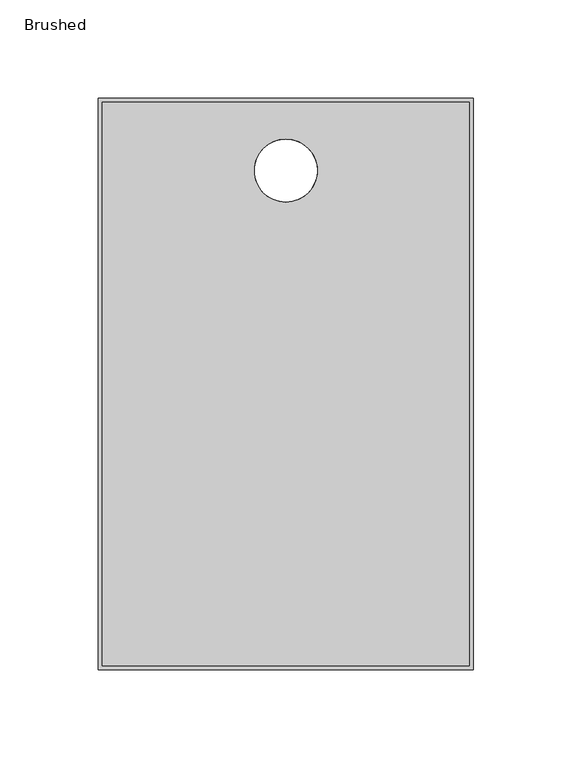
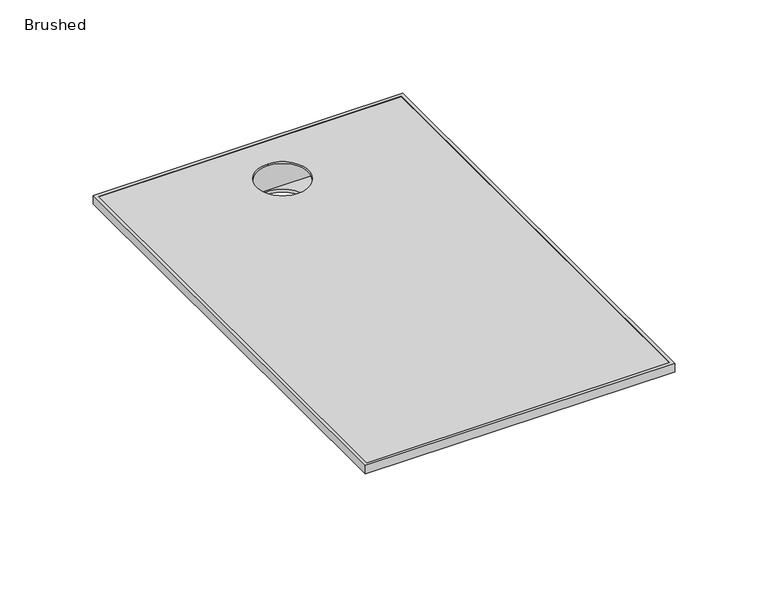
"""IFC4 building model written with IfcOpenShell, lengths in millimetres: flow terminal geometry, z_PlumFixt_Billi_Slimline Font : Brushed."""

from ifc_helpers import new_model, si_unit, point, frame, frame_2d, origin, place, context, project, spatial, polyline, circle_curve, ellipse_curve, trimmed, segment, composite_curve, outline, extrude, source, transform, mapped, element, save
from ifc_brep_helpers import plane_surface, revolved_surface, advanced_brep


def brushed_f93afeca(model_context):
    return source(origin(), model_context, "Body", "SolidModel", [
        advanced_brep(
        [(76.6433025, 111.8933025, -18.0), (-74.6433025, 111.8933025, -18.0), (-74.6433025, -139.3933025, -18.0), (76.6433025, -139.3933025, -18.0), (21.0, -13.75, -18.0), (-19.0, -13.75, -18.0), (17.0, 94.8404608, -18.0), (-15.0, 94.8404608, -18.0), (-75.6147367, 112.8647367, -20.0), (77.6147367, 112.8647367, -20.0), (77.6147367, -140.3647367, -20.0), (-75.6147367, -140.3647367, -20.0), (21.0, -13.75, -20.0), (-19.0, -13.75, -20.0), (17.0, 94.8404608, -20.0), (-15.0, 94.8404608, -20.0), (-94.5, 131.75, -5.5), (-94.5, 131.75, 0.0), (96.5, 131.75, 0.0), (96.5, 131.75, -5.5), (-78.5070058, 115.7570058, -9.2059048), (-83.3366349, 120.5866349, -5.5), (85.3366349, 120.5866349, -5.5), (80.5070058, 115.7570058, -9.2059048), (-92.5, 129.75, 0.0), (-92.5, 129.75, -1.9884397), (94.5, 129.75, -1.9884397), (94.5, 129.75, 0.0), (96.5, -159.25, 0.0), (96.5, -159.25, -5.5), (85.3366349, -148.0866349, -5.5), (80.5070058, -143.2570058, -9.2059048), (94.5, -157.25, -1.9884397), (94.5, -157.25, 0.0), (-94.5, -159.25, 0.0), (-94.5, -159.25, -5.5), (-83.3366349, -148.0866349, -5.5), (-78.5070058, -143.2570058, -9.2059048), (-92.5, -157.25, -1.9884397), (-92.5, -157.25, 0.0), (76.6433025, 111.8933025, -1.9884397), (76.6433025, -139.3933025, -1.9884397), (-74.6433025, -139.3933025, -1.9884397), (-74.6433025, 111.8933025, -1.9884397)],
        [
            (0, 1),
            (1, 2),
            (2, 3),
            (3, 0),
            (4, 5, circle_curve(frame((1.0, -13.75, -18.0), z_axis=(0.0, 0.0, -1.0), x_axis=(-1.0, 0.0, 0.0)), 20.0)),
            (5, 4, circle_curve(frame((1.0, -13.75, -18.0), z_axis=(0.0, 0.0, -1.0), x_axis=(-1.0, 0.0, 0.0)), 20.0)),
            (6, 7, circle_curve(frame((1.0, 94.8404608, -18.0), z_axis=(0.0, 0.0, -1.0), x_axis=(-1.0, 0.0, 0.0)), 16.0)),
            (7, 6, circle_curve(frame((1.0, 94.8404608, -18.0), z_axis=(0.0, 0.0, -1.0), x_axis=(-1.0, 0.0, 0.0)), 16.0)),
            (8, 9),
            (9, 10),
            (10, 11),
            (11, 8),
            (12, 13, circle_curve(frame((1.0, -13.75, -20.0), z_axis=(0.0, 0.0, 1.0), x_axis=(-1.0, 0.0, 0.0)), 20.0)),
            (13, 12, circle_curve(frame((1.0, -13.75, -20.0), z_axis=(0.0, 0.0, 1.0), x_axis=(-1.0, 0.0, 0.0)), 20.0)),
            (14, 15, circle_curve(frame((1.0, 94.8404608, -20.0), z_axis=(0.0, 0.0, 1.0), x_axis=(-1.0, 0.0, 0.0)), 16.0)),
            (15, 14, circle_curve(frame((1.0, 94.8404608, -20.0), z_axis=(0.0, 0.0, 1.0), x_axis=(-1.0, 0.0, 0.0)), 16.0)),
            (4, 12),
            (13, 5),
            (16, 17),
            (17, 18),
            (18, 19),
            (19, 16),
            (20, 21, ellipse_curve(frame((-83.3366349, 120.5866349, -10.5), z_axis=(-0.7071067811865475, -0.7071067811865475, 0.0), x_axis=(0.7071067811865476, -0.7071067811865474, 0.0)), 7.0710678, 5.0)),
            (21, 22),
            (22, 23, ellipse_curve(frame((85.3366349, 120.5866349, -10.5), z_axis=(0.7071067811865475, -0.7071067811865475, 0.0), x_axis=(0.7071067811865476, 0.7071067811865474, 0.0)), 7.0710678, 5.0)),
            (23, 20),
            (23, 9),
            (8, 20),
            (24, 25),
            (25, 26),
            (26, 27),
            (27, 24),
            (18, 28),
            (28, 29),
            (29, 19),
            (22, 30),
            (30, 31, ellipse_curve(frame((85.3366349, -148.0866349, -10.5), z_axis=(-0.7071067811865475, -0.7071067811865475, 0.0), x_axis=(0.7071067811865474, -0.7071067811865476, 0.0)), 7.0710678, 5.0)),
            (31, 23),
            (31, 10),
            (26, 32),
            (32, 33),
            (33, 27),
            (28, 34),
            (34, 35),
            (35, 29),
            (30, 36),
            (36, 37, ellipse_curve(frame((-83.3366349, -148.0866349, -10.5), z_axis=(-0.7071067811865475, 0.7071067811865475, 0.0), x_axis=(-0.7071067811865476, -0.7071067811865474, 0.0)), 7.0710678, 5.0)),
            (37, 31),
            (37, 11),
            (32, 38),
            (38, 39),
            (39, 33),
            (17, 34),
            (39, 24),
            (16, 35),
            (21, 36),
            (20, 37),
            (25, 38),
            (40, 41),
            (41, 42),
            (42, 43),
            (43, 40),
            (43, 1),
            (0, 40),
            (3, 41),
            (2, 42),
            (6, 14),
            (15, 7),
        ],
        [
            plane_surface(frame((76.6433025, -139.3933025, -18.0), z_axis=(0.0, 0.0, 1.0), x_axis=(1.0, 0.0, 0.0))),
            plane_surface(frame((76.6433025, -139.3933025, -20.0), z_axis=(0.0, 0.0, -1.0), x_axis=(-1.0, 0.0, 0.0))),
            revolved_surface(polyline([(-19.0, -13.75, -20.0), (-19.0, -13.75, -18.0)]), (1.0, -13.75, -20.0), (0.0, 0.0, -1.0)),
            plane_surface(frame((-94.5, 131.75, 0.0), z_axis=(0.0, 1.0, 0.0), x_axis=(1.0, 0.0, 0.0))),
            revolved_surface(polyline([(90.33663489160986, 125.5866349, -10.5), (-88.33663489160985, 125.5866349, -10.5)]), (-94.5, 120.5866349, -10.5), (1.0, 0.0, 0.0)),
            plane_surface(frame((-78.5070058, 115.7570058, -9.2059048), z_axis=(0.0, 0.9659258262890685, -0.2588190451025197), x_axis=(1.0, 0.0, 0.0))),
            plane_surface(frame((-92.5, 129.75, -1.9884397), z_axis=(0.0, -1.0, 0.0), x_axis=(1.0, 0.0, 0.0))),
            plane_surface(frame((96.5, 131.75, 0.0), z_axis=(1.0, 0.0, 0.0), x_axis=(0.0, -1.0, 0.0))),
            revolved_surface(polyline([(90.3366349, -153.0866348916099, -10.5), (90.3366349, 125.58663489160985, -10.5)]), (85.3366349, 131.75, -10.5), (0.0, -1.0, 0.0)),
            plane_surface(frame((80.5070058, 115.7570058, -9.2059048), z_axis=(0.9659258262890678, 0.0, -0.25881904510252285), x_axis=(0.0, -1.0, 0.0))),
            plane_surface(frame((94.5, 129.75, -1.9884397), z_axis=(-1.0, 0.0, 0.0), x_axis=(0.0, -1.0, 0.0))),
            plane_surface(frame((96.5, -159.25, 0.0), z_axis=(0.0, -1.0, 0.0), x_axis=(-1.0, 0.0, 0.0))),
            revolved_surface(polyline([(-88.33663489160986, -153.0866349, -10.5), (90.33663489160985, -153.0866349, -10.5)]), (96.5, -148.0866349, -10.5), (-1.0, 0.0, 0.0)),
            plane_surface(frame((80.5070058, -143.2570058, -9.2059048), z_axis=(0.0, -0.9659258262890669, -0.25881904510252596), x_axis=(-1.0, 0.0, 0.0))),
            plane_surface(frame((94.5, -157.25, -1.9884397), z_axis=(0.0, 1.0, 0.0), x_axis=(-1.0, 0.0, 0.0))),
            plane_surface(frame((-92.5, -157.25, 0.0), z_axis=(0.0, 0.0, 1.0), x_axis=(0.0, 1.0, 0.0))),
            plane_surface(frame((-94.5, -159.25, 0.0), z_axis=(-1.0, 0.0, 0.0), x_axis=(0.0, 1.0, 0.0))),
            plane_surface(frame((-94.5, -159.25, -5.5), z_axis=(0.0, 0.0, -1.0), x_axis=(0.0, 1.0, 0.0))),
            revolved_surface(polyline([(-88.3366349, 125.58663489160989, -10.5), (-88.3366349, -153.08663489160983, -10.5)]), (-83.3366349, -159.25, -10.5), (0.0, 1.0, 0.0)),
            plane_surface(frame((-78.5070058, -143.2570058, -9.2059048), z_axis=(-0.9659258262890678, 0.0, -0.25881904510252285), x_axis=(0.0, 1.0, 0.0))),
            plane_surface(frame((-74.6433025, -139.3933025, -1.9884397), z_axis=(0.0, 0.0, 1.0), x_axis=(0.0, 1.0, 0.0))),
            plane_surface(frame((-92.5, -157.25, -1.9884397), z_axis=(1.0, 0.0, 0.0), x_axis=(0.0, 1.0, 0.0))),
            plane_surface(frame((-74.6433025, 111.8933025, -20.0), z_axis=(0.0, -1.0, 0.0), x_axis=(1.0, 0.0, 0.0))),
            plane_surface(frame((76.6433025, 111.8933025, -20.0), z_axis=(-1.0, 0.0, 0.0), x_axis=(0.0, -1.0, 0.0))),
            plane_surface(frame((76.6433025, -139.3933025, -20.0), z_axis=(0.0, 1.0, 0.0), x_axis=(-1.0, 0.0, 0.0))),
            plane_surface(frame((-74.6433025, -139.3933025, -20.0), z_axis=(1.0, 0.0, 0.0), x_axis=(0.0, 1.0, 0.0))),
            revolved_surface(polyline([(-15.0, 94.8404608, -20.0), (-15.0, 94.8404608, -18.0)]), (1.0, 94.8404608, -20.0), (0.0, 0.0, -1.0)),
        ],
        [
            (0, [[1, 2, 3, 4], [5, 6], [7, 8]]),
            (1, [[9, 10, 11, 12], [13, 14], [15, 16]]),
            (2, [[-5, 17, -14, 18]]),
            (2, [[-6, -18, -13, -17]]),
            (3, [[19, 20, 21, 22]]),
            (4, [[23, 24, 25, 26]]),
            (5, [[-26, 27, -9, 28]]),
            (6, [[29, 30, 31, 32]]),
            (7, [[-21, 33, 34, 35]]),
            (8, [[-25, 36, 37, 38]]),
            (9, [[-27, -38, 39, -10]]),
            (10, [[-31, 40, 41, 42]]),
            (11, [[-34, 43, 44, 45]]),
            (12, [[-37, 46, 47, 48]]),
            (13, [[-39, -48, 49, -11]]),
            (14, [[-41, 50, 51, 52]]),
            (15, [[-20, 53, -43, -33], [-32, -42, -52, 54]]),
            (16, [[-19, 55, -44, -53]]),
            (17, [[-22, -35, -45, -55], [-24, 56, -46, -36]]),
            (18, [[-23, 57, -47, -56]]),
            (19, [[-28, -12, -49, -57]]),
            (20, [[-30, 58, -50, -40], [59, 60, 61, 62]]),
            (21, [[-29, -54, -51, -58]]),
            (22, [[-62, 63, -1, 64]]),
            (23, [[-59, -64, -4, 65]]),
            (24, [[-60, -65, -3, 66]]),
            (25, [[-61, -66, -2, -63]]),
            (26, [[-7, 67, -16, 68]]),
            (26, [[-8, -68, -15, -67]]),
        ],
    ),
        extrude(outline(composite_curve([segment(trimmed(circle_curve(frame_2d((1.0, -13.75)), 22.0), [point((23.0, -13.75))], [point((-21.0, -13.75))], False, "CARTESIAN"), True, "CONTINUOUS"), segment(trimmed(circle_curve(frame_2d((1.0, -13.75)), 22.0), [point((-21.0, -13.75))], [point((23.0, -13.75))], False, "CARTESIAN"), True, "CONTINUOUS")], self_intersect=False), holes=[composite_curve([segment(trimmed(circle_curve(frame_2d((1.0, -13.75)), 20.0), [point((21.0, -13.75))], [point((-19.0, -13.75))], True, "CARTESIAN"), True, "CONTINUOUS"), segment(trimmed(circle_curve(frame_2d((1.0, -13.75)), 20.0), [point((-19.0, -13.75))], [point((21.0, -13.75))], True, "CARTESIAN"), True, "CONTINUOUS")], self_intersect=False)]), frame((0.0, 0.0, -35.0), z_axis=(0.0, 0.0, 1.0), x_axis=(1.0, 0.0, 0.0)), (0.0, 0.0, 1.0), 15.0),
        extrude(outline(polyline([(-92.5, -157.25), (-92.5, 129.75), (94.5, 129.75), (94.5, -157.25), (-92.5, -157.25)]), holes=[composite_curve([segment(trimmed(circle_curve(frame_2d((1.0, 94.8404608)), 16.0), [point((1.0, 78.8404608))], [point((1.0, 110.8404608))], True, "CARTESIAN"), True, "CONTINUOUS"), segment(trimmed(circle_curve(frame_2d((1.0, 94.8404608)), 16.0), [point((1.0, 110.8404608))], [point((1.0, 78.8404608))], True, "CARTESIAN"), True, "CONTINUOUS")], self_intersect=False)]), frame((0.0, 0.0, -1.1505737), z_axis=(0.0, 0.0, 1.0), x_axis=(1.0, 0.0, 0.0)), (0.0, 0.0, 1.0), 1.1505737),
    ])


if __name__ == "__main__":
    model = new_model("IFC4")
    model_context = context("Model", 3, world=origin())
    ifc_project = project(units=[si_unit("LENGTHUNIT", "METRE", prefix="MILLI")], contexts=[model_context])
    site = spatial("IfcSite", under=ifc_project)
    building = spatial("IfcBuilding", under=site)
    placement = place(None, origin())
    brushed_shape = brushed_f93afeca(model_context)
    element("IfcFlowTerminal", 1, ObjectType="z_PlumFixt_Billi_Slimline Font : Brushed", at=placement, inside=building, context=model_context, shape_type="MappedRepresentation", body=[
        mapped(brushed_shape, transform((0.0, 0.0, 0.0), x_axis=(1.0, 0.0, 0.0), y_axis=(0.0, 1.0, 0.0), z_axis=(0.0, 0.0, 1.0))),
    ])
    save(model, "model.ifc")
